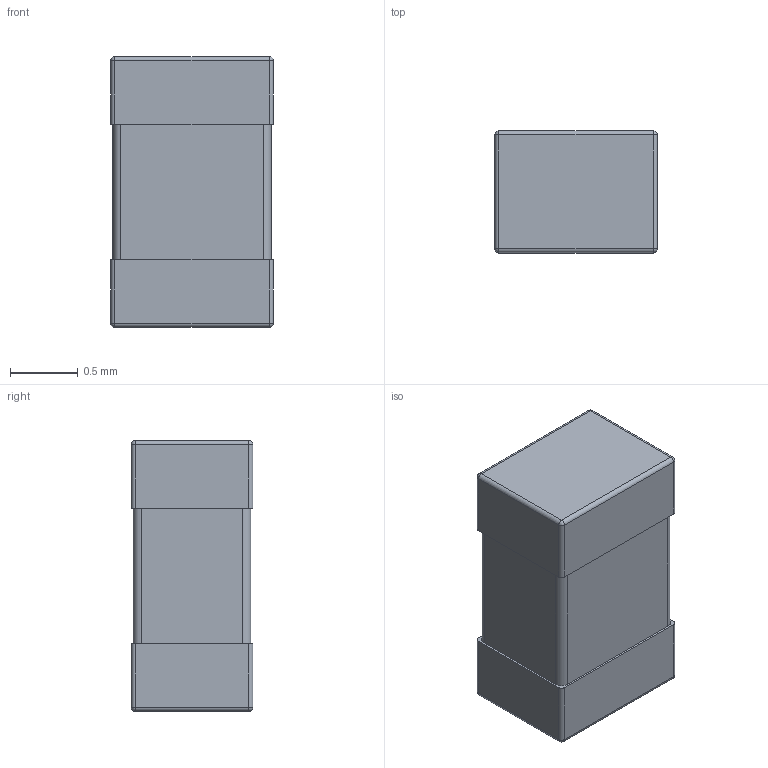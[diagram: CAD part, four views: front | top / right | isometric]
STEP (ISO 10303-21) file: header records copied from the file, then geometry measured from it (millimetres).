
FILE_DESCRIPTION((''),'2;1');
FILE_NAME('C-2176744-1','2024-06-20T05:21:09',('workeradm'),('TE Connectivity Ltd.'),'CREO PARAMETRIC BY PTC INC, 2021072','CREO PARAMETRIC BY PTC INC, 2021072','');
FILE_SCHEMA(('AUTOMOTIVE_DESIGN { 1 0 10303 214 1 1 1 1 }'));
Length unit declared in the file: millimetre
Products named in the file (1): C-2176744-1
Bounding box: 1.2 x 0.9 x 2 mm (x, y, z)
Volume: 2.1 mm3; surface area: 10.3 mm2
Topology: 1 solids, 1 shells, 44 faces, 96 edges, 56 vertices
Faces by surface type: cylinder 20, plane 16, sphere 8
Entity records: 1364 total; most frequent: DIRECTION 224, CARTESIAN_POINT 198, ORIENTED_EDGE 192, COLOUR_RGB 126, EDGE_CURVE 96, AXIS2_PLACEMENT_3D 84, VECTOR 56, LINE 56
